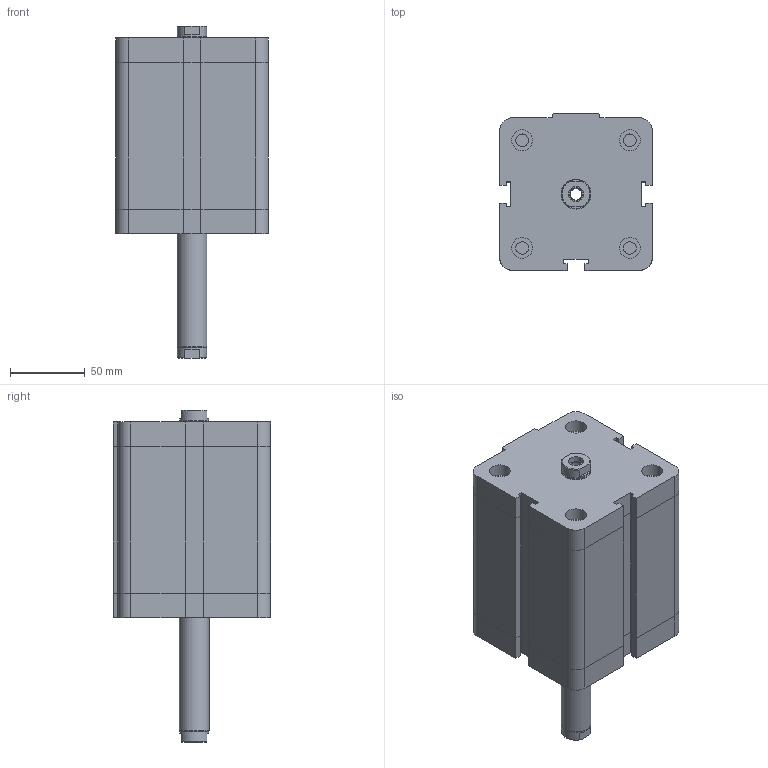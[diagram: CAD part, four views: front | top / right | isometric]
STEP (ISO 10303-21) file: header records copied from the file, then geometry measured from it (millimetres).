
FILE_DESCRIPTION((''),'2;1');
FILE_NAME('I:\Area Tecnica\Disegni\VARIE-3D\Componenti\EUROPE\15##_###_####_06_#\1561_80_0075_06_1.iam.stp','2009-04-20T15:07:07',(''),(''),'Autodesk Inventor 2009','Autodesk Inventor 2009','');
FILE_SCHEMA(('AUTOMOTIVE_DESIGN { 1 0 10303 214 1 1 1 1 }'));
Length unit declared in the file: millimetre
Products named in the file (3): 1561_80_0075_06_1; 1561_80_0075_03_1_C; 1561_80_0075_06_1_S
Assembly tree (2 placements, depth 2):
  1561_80_0075_06_1
    1561_80_0075_03_1_C
    1561_80_0075_06_1_S
Bounding box: 102 x 105 x 222 mm (x, y, z)
Volume: 1325366.2 mm3; surface area: 115829.3 mm2
Topology: 2 solids, 2 shells, 175 faces, 382 edges, 233 vertices
Faces by surface type: plane 114, bspline 30, cylinder 25, cone 6
Full cylindrical faces by diameter (mm): 8.376 x5, 10.3 x1, 14 x4, 19.5 x2, 20 x1
Entity records: 4805 total; most frequent: CARTESIAN_POINT 1042, DIRECTION 712, ORIENTED_EDGE 680, EDGE_CURVE 340, VECTOR 252, LINE 252, AXIS2_PLACEMENT_3D 230, EDGE_LOOP 230
